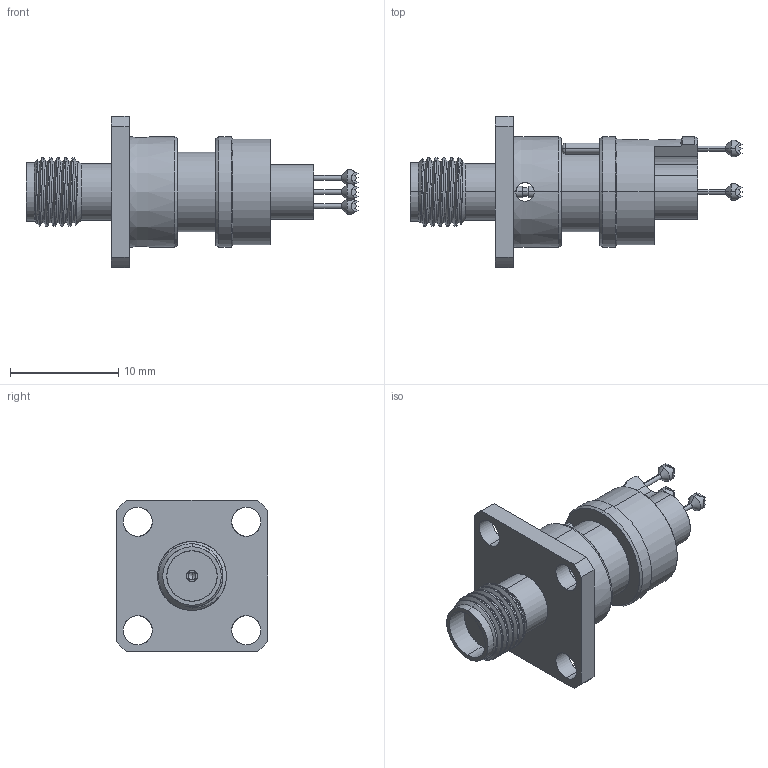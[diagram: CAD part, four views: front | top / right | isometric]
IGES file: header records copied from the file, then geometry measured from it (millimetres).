
Start section: SolidWorks IGES file using analytic representation for surfaces
Global section: file name: Z:\probe solid model mockups\Solidworks models\IGES Files\K-50H-S-SPL-01H-116\K-50H-S-SPL-01H-116.IGS; native system: SolidWorks 2006 by SolidWorks Corporation; preprocessor: SolidWorks 2006 by SolidWorks Corporation; author: tsakatani; date: 080108.090912; units: inch
Bounding box: 30.63 x 14 x 14 mm (x, y, z)
Surface area: 1432.3 mm2 (no closed solid volume)
Topology: 0 solids, 0 shells, 233 faces, 2705 edges, 2703 vertices
Faces by surface type: bspline 120, revolution 113
